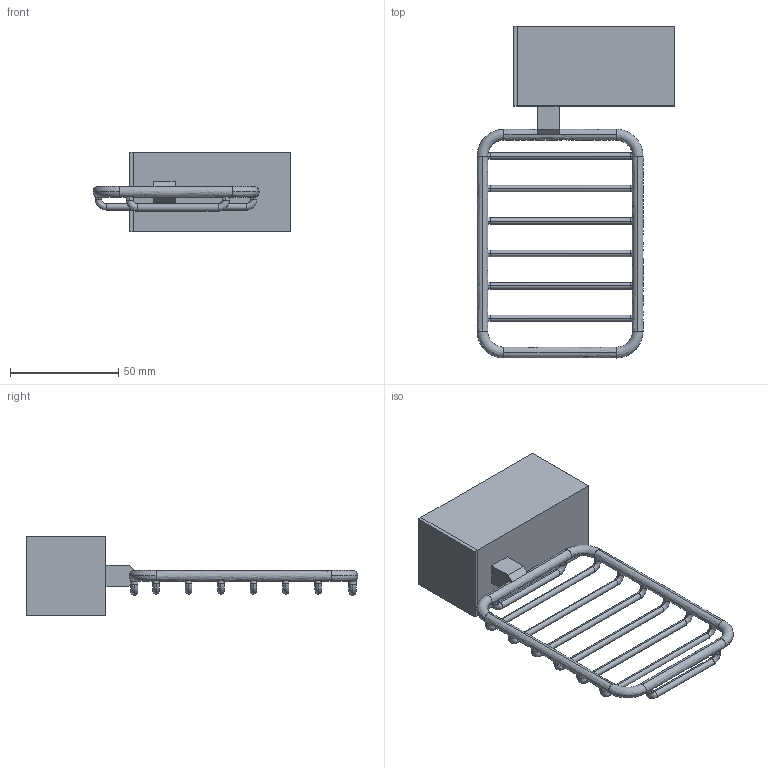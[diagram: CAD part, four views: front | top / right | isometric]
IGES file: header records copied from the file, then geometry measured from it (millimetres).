
Start section: Autodesk Alias AutoStudio 2020 (Build: 201905142046-4cbec609ad) Autodesk Translation Framework 8.4.1.1053
Global section: file name: 12126310; native system: unknown; preprocessor: unknown; author: unknown; organization: unknown; date: 20220929.162009; units: millimetre
Bounding box: 91.55 x 153.6 x 37 mm (x, y, z)
Surface area: 49154.4 mm2 (no closed solid volume)
Topology: 0 solids, 2 shells, 121 faces, 353 edges, 217 vertices
Faces by surface type: bspline 121
